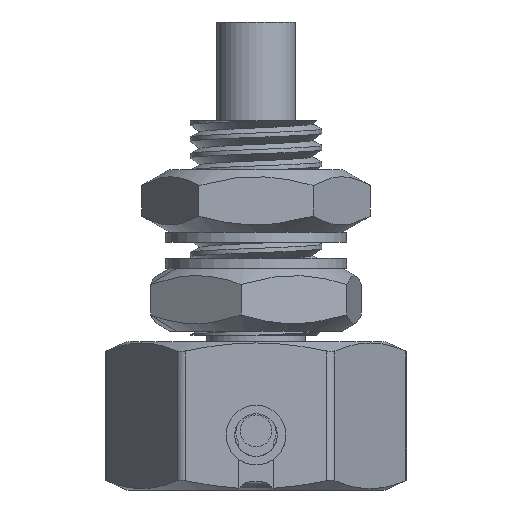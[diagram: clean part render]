
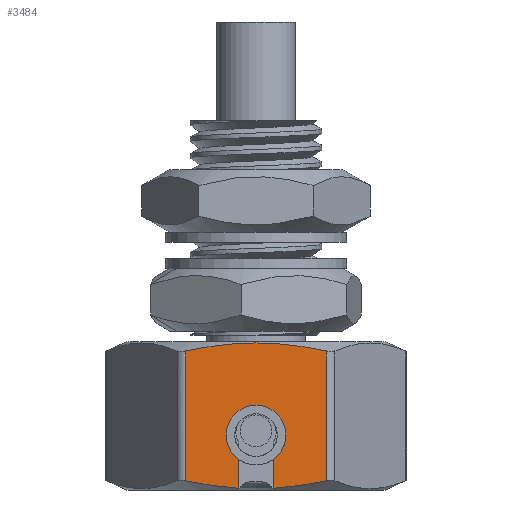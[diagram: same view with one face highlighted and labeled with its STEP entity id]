
A CAD part, front view. The second image highlights one B-rep face of the part: STEP entity #3484.
In plain terms, the highlighted planar face has unit normal (0, -1, 0).
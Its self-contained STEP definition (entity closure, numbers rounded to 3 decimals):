
#6 = AXIS2_PLACEMENT_3D ( 'NONE', #1786, #1588, #8220 ) ;
#285 = CARTESIAN_POINT ( 'NONE',  ( 2.136, -4., 1.968 ) ) ;
#964 = DIRECTION ( 'NONE',  ( 0., -1., 0. ) ) ;
#1028 = VECTOR ( 'NONE', #10640, 1000. ) ;
#1238 = CARTESIAN_POINT ( 'NONE',  ( 2.136, -4., -1.968 ) ) ;
#1424 = AXIS2_PLACEMENT_3D ( 'NONE', #2107, #11768, #6425 ) ;
#1588 = DIRECTION ( 'NONE',  ( 0., 1., 0. ) ) ;
#1671 = ORIENTED_EDGE ( 'NONE', *, *, #4054, .T. ) ;
#1689 = CARTESIAN_POINT ( 'NONE',  ( -0.52, -4., -2.196 ) ) ;
#1786 = CARTESIAN_POINT ( 'NONE',  ( -2.309, -4., 2.25 ) ) ;
#1811 = CARTESIAN_POINT ( 'NONE',  ( 0.904, -4., -0.583 ) ) ;
#1815 = CARTESIAN_POINT ( 'NONE',  ( -0.713, -4., 2.19 ) ) ;
#1930 = EDGE_CURVE ( 'NONE', #11973, #12500, #7584, .T. ) ;
#2107 = CARTESIAN_POINT ( 'NONE',  ( 0., -4., -0.583 ) ) ;
#2262 = CARTESIAN_POINT ( 'NONE',  ( 1.06, -4., -2.165 ) ) ;
#2453 = ORIENTED_EDGE ( 'NONE', *, *, #1930, .F. ) ;
#2625 = CARTESIAN_POINT ( 'NONE',  ( 2.136, -4., 2.25 ) ) ;
#2740 = LINE ( 'NONE', #8394, #1028 ) ;
#2805 = VECTOR ( 'NONE', #4267, 1000. ) ;
#2947 = CARTESIAN_POINT ( 'NONE',  ( 2.136, -4., 1.968 ) ) ;
#3484 = ADVANCED_FACE ( 'NONE', ( #12998 ), #7153, .F. ) ;
#3761 = CARTESIAN_POINT ( 'NONE',  ( -2.136, -4., 2.25 ) ) ;
#4045 = CARTESIAN_POINT ( 'NONE',  ( 1.427, -4., 2.106 ) ) ;
#4054 = EDGE_CURVE ( 'NONE', #4563, #10504, #7793, .T. ) ;
#4130 = CARTESIAN_POINT ( 'NONE',  ( 1.785, -4., 2.044 ) ) ;
#4155 = DIRECTION ( 'NONE',  ( 0., 0., -1. ) ) ;
#4180 = CARTESIAN_POINT ( 'NONE',  ( 0., -4., -0.583 ) ) ;
#4227 = EDGE_CURVE ( 'NONE', #13937, #11973, #6778, .T. ) ;
#4267 = DIRECTION ( 'NONE',  ( 0., 0., 1. ) ) ;
#4274 = EDGE_CURVE ( 'NONE', #12500, #11169, #2740, .T. ) ;
#4417 = CARTESIAN_POINT ( 'NONE',  ( 1.604, -4., -2.082 ) ) ;
#4419 = ORIENTED_EDGE ( 'NONE', *, *, #8305, .T. ) ;
#4471 = B_SPLINE_CURVE_WITH_KNOTS ( 'NONE', 3,
 ( #2947, #4130, #4045, #6286, #7236, #13769, #1815, #11477, #13673, #7280 ),
 .UNSPECIFIED., .F., .F.,
 ( 4, 2, 2, 2, 4 ),
 ( 0.007, 0.008, 0.009, 0.011, 0.012 ),
 .UNSPECIFIED. ) ;
#4563 = VERTEX_POINT ( 'NONE', #4740 ) ;
#4740 = CARTESIAN_POINT ( 'NONE',  ( -2.136, -4., 1.968 ) ) ;
#4783 = ORIENTED_EDGE ( 'NONE', *, *, #4227, .F. ) ;
#5164 = DIRECTION ( 'NONE',  ( 0., 0., 1. ) ) ;
#5266 = DIRECTION ( 'NONE',  ( 1., 0., 0. ) ) ;
#5526 = ORIENTED_EDGE ( 'NONE', *, *, #11728, .T. ) ;
#5572 = EDGE_CURVE ( 'NONE', #10504, #11169, #12380, .T. ) ;
#5616 = VECTOR ( 'NONE', #4155, 1000. ) ;
#6142 = ORIENTED_EDGE ( 'NONE', *, *, #10196, .T. ) ;
#6251 = CARTESIAN_POINT ( 'NONE',  ( -0.52, -4., -2.196 ) ) ;
#6254 = CARTESIAN_POINT ( 'NONE',  ( 0.52, -4., -1.322 ) ) ;
#6286 = CARTESIAN_POINT ( 'NONE',  ( 0.713, -4., 2.19 ) ) ;
#6302 = B_SPLINE_CURVE_WITH_KNOTS ( 'NONE', 3,
 ( #10876, #2262, #4417, #1238 ),
 .UNSPECIFIED., .F., .F.,
 ( 4, 4 ),
 ( 0.007, 0.008 ),
 .UNSPECIFIED. ) ;
#6425 = DIRECTION ( 'NONE',  ( 1., 0., 0. ) ) ;
#6778 = CIRCLE ( 'NONE', #7156, 0.904 ) ;
#7153 = PLANE ( 'NONE',  #6 ) ;
#7156 = AXIS2_PLACEMENT_3D ( 'NONE', #4180, #11535, #5266 ) ;
#7236 = CARTESIAN_POINT ( 'NONE',  ( 0.357, -4., 2.212 ) ) ;
#7280 = CARTESIAN_POINT ( 'NONE',  ( -2.136, -4., 1.968 ) ) ;
#7584 = CIRCLE ( 'NONE', #9881, 0.904 ) ;
#7793 = LINE ( 'NONE', #3761, #5616 ) ;
#8220 = DIRECTION ( 'NONE',  ( -1., 0., 0. ) ) ;
#8305 = EDGE_CURVE ( 'NONE', #8601, #9404, #6302, .T. ) ;
#8339 = CARTESIAN_POINT ( 'NONE',  ( 0.52, -4., -2.196 ) ) ;
#8389 = CARTESIAN_POINT ( 'NONE',  ( -1.06, -4., -2.165 ) ) ;
#8394 = CARTESIAN_POINT ( 'NONE',  ( -0.52, -4., -2.196 ) ) ;
#8420 = ORIENTED_EDGE ( 'NONE', *, *, #5572, .T. ) ;
#8601 = VERTEX_POINT ( 'NONE', #12625 ) ;
#8777 = CARTESIAN_POINT ( 'NONE',  ( 2.136, -4., -1.968 ) ) ;
#8950 = EDGE_LOOP ( 'NONE', ( #11391, #10244, #4419, #6142, #5526, #1671, #8420, #12169, #2453, #4783 ) ) ;
#9058 = CIRCLE ( 'NONE', #1424, 0.904 ) ;
#9404 = VERTEX_POINT ( 'NONE', #8777 ) ;
#9550 = CARTESIAN_POINT ( 'NONE',  ( -2.136, -4., -1.968 ) ) ;
#9564 = CARTESIAN_POINT ( 'NONE',  ( 0., -4., -0.583 ) ) ;
#9881 = AXIS2_PLACEMENT_3D ( 'NONE', #9564, #964, #12822 ) ;
#9997 = CARTESIAN_POINT ( 'NONE',  ( -0.904, -4., -0.583 ) ) ;
#10196 = EDGE_CURVE ( 'NONE', #9404, #10515, #12938, .T. ) ;
#10244 = ORIENTED_EDGE ( 'NONE', *, *, #13423, .F. ) ;
#10362 = LINE ( 'NONE', #8339, #2805 ) ;
#10504 = VERTEX_POINT ( 'NONE', #12174 ) ;
#10515 = VERTEX_POINT ( 'NONE', #285 ) ;
#10640 = DIRECTION ( 'NONE',  ( 0., 0., -1. ) ) ;
#10876 = CARTESIAN_POINT ( 'NONE',  ( 0.52, -4., -2.196 ) ) ;
#10898 = VECTOR ( 'NONE', #5164, 1000. ) ;
#11169 = VERTEX_POINT ( 'NONE', #1689 ) ;
#11294 = EDGE_CURVE ( 'NONE', #12708, #13937, #9058, .T. ) ;
#11309 = CARTESIAN_POINT ( 'NONE',  ( -0.52, -4., -1.322 ) ) ;
#11391 = ORIENTED_EDGE ( 'NONE', *, *, #11294, .F. ) ;
#11477 = CARTESIAN_POINT ( 'NONE',  ( -1.427, -4., 2.106 ) ) ;
#11535 = DIRECTION ( 'NONE',  ( 0., -1., 0. ) ) ;
#11728 = EDGE_CURVE ( 'NONE', #10515, #4563, #4471, .T. ) ;
#11768 = DIRECTION ( 'NONE',  ( 0., -1., 0. ) ) ;
#11973 = VERTEX_POINT ( 'NONE', #9997 ) ;
#12169 = ORIENTED_EDGE ( 'NONE', *, *, #4274, .F. ) ;
#12174 = CARTESIAN_POINT ( 'NONE',  ( -2.136, -4., -1.968 ) ) ;
#12380 = B_SPLINE_CURVE_WITH_KNOTS ( 'NONE', 3,
 ( #9550, #12671, #8389, #6251 ),
 .UNSPECIFIED., .F., .F.,
 ( 4, 4 ),
 ( 0.004, 0.006 ),
 .UNSPECIFIED. ) ;
#12500 = VERTEX_POINT ( 'NONE', #11309 ) ;
#12625 = CARTESIAN_POINT ( 'NONE',  ( 0.52, -4., -2.196 ) ) ;
#12671 = CARTESIAN_POINT ( 'NONE',  ( -1.603, -4., -2.083 ) ) ;
#12708 = VERTEX_POINT ( 'NONE', #6254 ) ;
#12822 = DIRECTION ( 'NONE',  ( 1., 0., 0. ) ) ;
#12938 = LINE ( 'NONE', #2625, #10898 ) ;
#12998 = FACE_OUTER_BOUND ( 'NONE', #8950, .T. ) ;
#13423 = EDGE_CURVE ( 'NONE', #8601, #12708, #10362, .T. ) ;
#13673 = CARTESIAN_POINT ( 'NONE',  ( -1.784, -4., 2.044 ) ) ;
#13769 = CARTESIAN_POINT ( 'NONE',  ( -0.357, -4., 2.212 ) ) ;
#13937 = VERTEX_POINT ( 'NONE', #1811 ) ;
